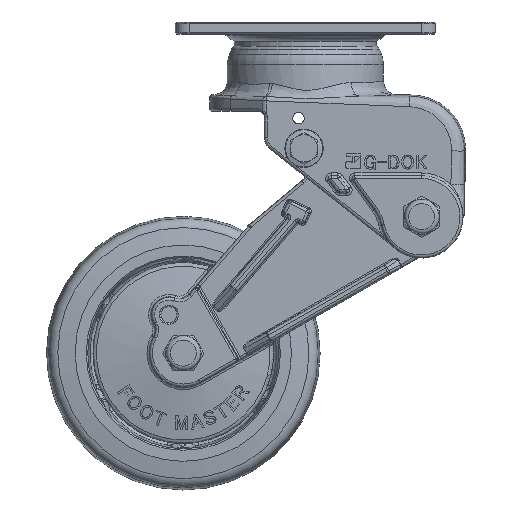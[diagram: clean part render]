
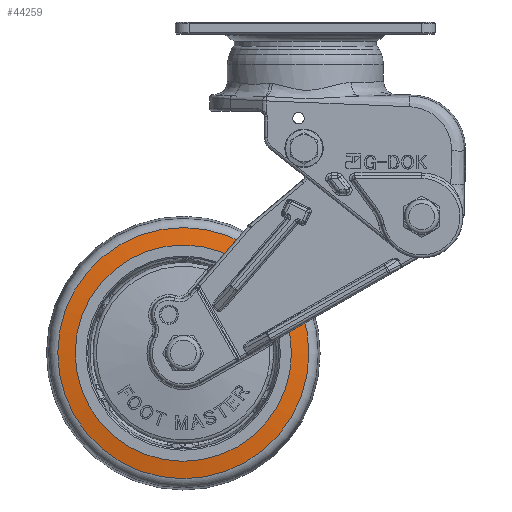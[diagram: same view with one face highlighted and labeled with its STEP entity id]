
A CAD part, front view. The second image highlights one B-rep face of the part: STEP entity #44259.
In plain terms, the highlighted conical face has half-angle 80.918 degrees and reference radius 42.694 mm.
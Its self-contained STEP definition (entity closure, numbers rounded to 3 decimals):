
#1388=CONICAL_SURFACE('',#46872,42.694,1.412);
#4496=FACE_OUTER_BOUND('',#7197,.T.);
#7197=EDGE_LOOP('',(#28954,#28955,#28956,#28957,#28958));
#9697=CIRCLE('',#46873,45.873);
#9698=CIRCLE('',#46874,39.516);
#9699=CIRCLE('',#46875,45.873);
#12150=LINE('',#64034,#14643);
#14643=VECTOR('',#51770,42.694);
#17113=VERTEX_POINT('',#64030);
#17114=VERTEX_POINT('',#64031);
#17115=VERTEX_POINT('',#64033);
#21484=EDGE_CURVE('',#17113,#17114,#9697,.T.);
#21485=EDGE_CURVE('',#17114,#17115,#12150,.T.);
#21486=EDGE_CURVE('',#17115,#17115,#9698,.T.);
#21487=EDGE_CURVE('',#17114,#17113,#9699,.T.);
#28954=ORIENTED_EDGE('',*,*,#21484,.T.);
#28955=ORIENTED_EDGE('',*,*,#21485,.T.);
#28956=ORIENTED_EDGE('',*,*,#21486,.T.);
#28957=ORIENTED_EDGE('',*,*,#21485,.F.);
#28958=ORIENTED_EDGE('',*,*,#21487,.T.);
#44259=ADVANCED_FACE('',(#4496),#1388,.T.);
#46872=AXIS2_PLACEMENT_3D('',#64029,#51766,#51767);
#46873=AXIS2_PLACEMENT_3D('',#64032,#51768,#51769);
#46874=AXIS2_PLACEMENT_3D('',#64035,#51771,#51772);
#46875=AXIS2_PLACEMENT_3D('',#64036,#51773,#51774);
#51766=DIRECTION('center_axis',(0.,1.,0.));
#51767=DIRECTION('ref_axis',(0.868,0.,0.497));
#51768=DIRECTION('center_axis',(0.,-1.,0.));
#51769=DIRECTION('ref_axis',(0.497,0.,-0.868));
#51770=DIRECTION('',(0.857,-0.158,0.49));
#51771=DIRECTION('center_axis',(0.,1.,0.));
#51772=DIRECTION('ref_axis',(0.868,0.,0.497));
#51773=DIRECTION('center_axis',(0.,-1.,0.));
#51774=DIRECTION('ref_axis',(0.497,0.,-0.868));
#64029=CARTESIAN_POINT('Origin',(-44.607,-14.492,-112.349));
#64030=CARTESIAN_POINT('',(-67.392,-13.984,-72.535));
#64031=CARTESIAN_POINT('',(-84.421,-13.984,-135.134));
#64032=CARTESIAN_POINT('Origin',(-44.607,-13.984,-112.349));
#64033=CARTESIAN_POINT('',(-78.904,-15.,-131.977));
#64034=CARTESIAN_POINT('',(-81.663,-14.492,-133.555));
#64035=CARTESIAN_POINT('Origin',(-44.607,-15.,-112.349));
#64036=CARTESIAN_POINT('Origin',(-44.607,-13.984,-112.349));
